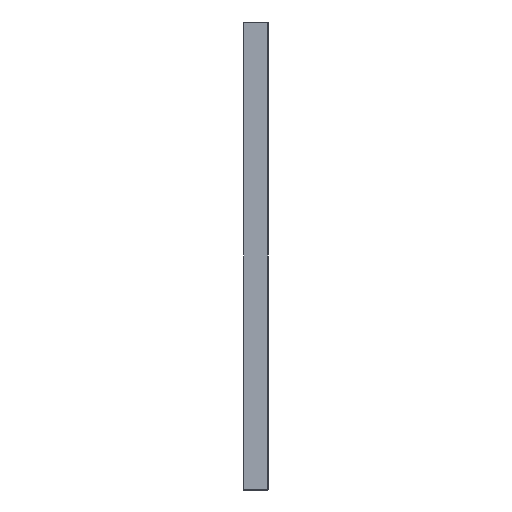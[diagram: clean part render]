
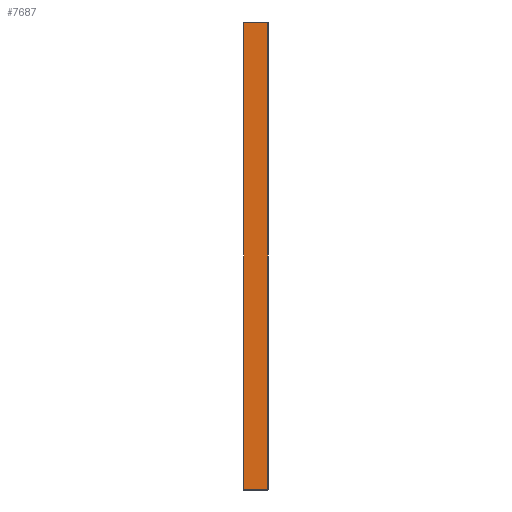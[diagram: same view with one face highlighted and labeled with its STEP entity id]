
A CAD part, left-side view. The second image highlights one B-rep face of the part: STEP entity #7687.
In plain terms, the highlighted planar face has unit normal (-1, 0, 0).
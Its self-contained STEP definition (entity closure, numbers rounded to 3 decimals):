
#133 = VERTEX_POINT ( 'NONE', #7934 ) ;
#269 = EDGE_CURVE ( 'NONE', #133, #8355, #3178, .T. ) ;
#399 = CARTESIAN_POINT ( 'NONE',  ( -21.25, -0.75, 1430. ) ) ;
#454 = EDGE_CURVE ( 'NONE', #8010, #133, #2319, .T. ) ;
#490 = VECTOR ( 'NONE', #3450, 1000. ) ;
#1008 = ORIENTED_EDGE ( 'NONE', *, *, #454, .T. ) ;
#1388 = AXIS2_PLACEMENT_3D ( 'NONE', #7177, #8539, #4480 ) ;
#1551 = EDGE_CURVE ( 'NONE', #8355, #8548, #7513, .T. ) ;
#1902 = DIRECTION ( 'NONE',  ( 0., -1., 0. ) ) ;
#2319 = LINE ( 'NONE', #7509, #490 ) ;
#2367 = DIRECTION ( 'NONE',  ( 0., 0., 1. ) ) ;
#2860 = LINE ( 'NONE', #3958, #6511 ) ;
#2885 = CARTESIAN_POINT ( 'NONE',  ( -21.25, 0., 0. ) ) ;
#2918 = DIRECTION ( 'NONE',  ( 0., -1., 0. ) ) ;
#2990 = ORIENTED_EDGE ( 'NONE', *, *, #6892, .F. ) ;
#3178 = LINE ( 'NONE', #2885, #6805 ) ;
#3450 = DIRECTION ( 'NONE',  ( 0., 0., -1. ) ) ;
#3564 = CARTESIAN_POINT ( 'NONE',  ( -21.25, 73., 1430. ) ) ;
#3682 = FACE_OUTER_BOUND ( 'NONE', #5815, .T. ) ;
#3958 = CARTESIAN_POINT ( 'NONE',  ( -21.25, 0., 1430. ) ) ;
#4365 = ORIENTED_EDGE ( 'NONE', *, *, #1551, .T. ) ;
#4401 = CARTESIAN_POINT ( 'NONE',  ( -21.25, -0.75, 1430. ) ) ;
#4480 = DIRECTION ( 'NONE',  ( 0., 0., -1. ) ) ;
#4529 = ORIENTED_EDGE ( 'NONE', *, *, #269, .T. ) ;
#5724 = VECTOR ( 'NONE', #2367, 1000. ) ;
#5815 = EDGE_LOOP ( 'NONE', ( #4529, #4365, #2990, #1008 ) ) ;
#6511 = VECTOR ( 'NONE', #1902, 1000. ) ;
#6805 = VECTOR ( 'NONE', #2918, 1000. ) ;
#6892 = EDGE_CURVE ( 'NONE', #8010, #8548, #2860, .T. ) ;
#7177 = CARTESIAN_POINT ( 'NONE',  ( -21.25, 0., 1430. ) ) ;
#7509 = CARTESIAN_POINT ( 'NONE',  ( -21.25, 73., 1430. ) ) ;
#7513 = LINE ( 'NONE', #4401, #5724 ) ;
#7687 = ADVANCED_FACE ( 'NONE', ( #3682 ), #7857, .F. ) ;
#7857 = PLANE ( 'NONE',  #1388 ) ;
#7934 = CARTESIAN_POINT ( 'NONE',  ( -21.25, 73., 0. ) ) ;
#8010 = VERTEX_POINT ( 'NONE', #3564 ) ;
#8355 = VERTEX_POINT ( 'NONE', #8391 ) ;
#8391 = CARTESIAN_POINT ( 'NONE',  ( -21.25, -0.75, 0. ) ) ;
#8539 = DIRECTION ( 'NONE',  ( 1., 0., 0. ) ) ;
#8548 = VERTEX_POINT ( 'NONE', #399 ) ;
